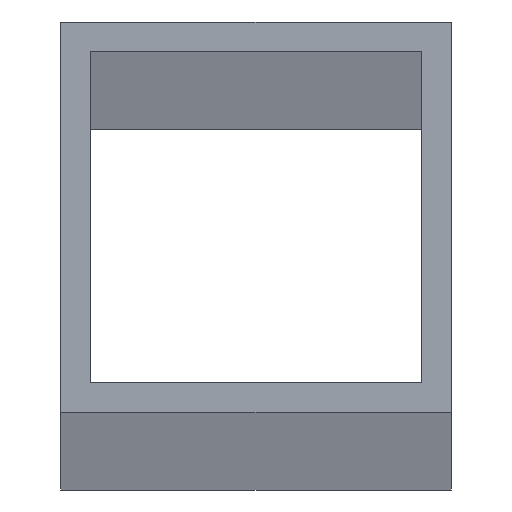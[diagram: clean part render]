
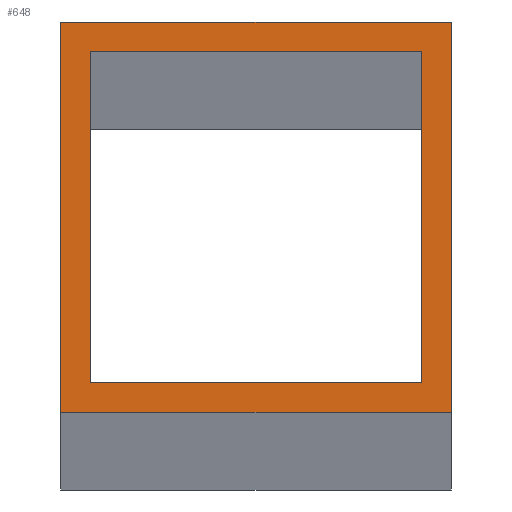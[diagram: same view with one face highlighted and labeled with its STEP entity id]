
A CAD part, top view. The second image highlights one B-rep face of the part: STEP entity #648.
In plain terms, the highlighted planar face has unit normal (0, 0, 1).
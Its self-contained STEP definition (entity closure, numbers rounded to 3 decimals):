
#24 = VERTEX_POINT('',#25);
#25 = CARTESIAN_POINT('',(-20.,-20.,4568.118));
#32 = PLANE('',#33);
#33 = AXIS2_PLACEMENT_3D('',#34,#35,#36);
#34 = CARTESIAN_POINT('',(-20.,-20.,0.));
#35 = DIRECTION('',(0.,1.,0.));
#36 = DIRECTION('',(1.,0.,0.));
#44 = PLANE('',#45);
#45 = AXIS2_PLACEMENT_3D('',#46,#47,#48);
#46 = CARTESIAN_POINT('',(-20.,20.,0.));
#47 = DIRECTION('',(1.,0.,-0.));
#48 = DIRECTION('',(0.,-1.,0.));
#56 = EDGE_CURVE('',#24,#57,#59,.T.);
#57 = VERTEX_POINT('',#58);
#58 = CARTESIAN_POINT('',(20.,-20.,4568.118));
#59 = SURFACE_CURVE('',#60,(#64,#71),.PCURVE_S1.);
#60 = LINE('',#61,#62);
#61 = CARTESIAN_POINT('',(-20.,-20.,4568.118));
#62 = VECTOR('',#63,1.);
#63 = DIRECTION('',(1.,0.,0.));
#64 = PCURVE('',#32,#65);
#65 = DEFINITIONAL_REPRESENTATION('',(#66),#70);
#66 = LINE('',#67,#68);
#67 = CARTESIAN_POINT('',(0.,-4568.118));
#68 = VECTOR('',#69,1.);
#69 = DIRECTION('',(1.,0.));
#70 = ( GEOMETRIC_REPRESENTATION_CONTEXT(2) 
PARAMETRIC_REPRESENTATION_CONTEXT() REPRESENTATION_CONTEXT('2D SPACE',''
  ) );
#71 = PCURVE('',#72,#77);
#72 = PLANE('',#73);
#73 = AXIS2_PLACEMENT_3D('',#74,#75,#76);
#74 = CARTESIAN_POINT('',(0.,0.,4568.118));
#75 = DIRECTION('',(0.,0.,1.));
#76 = DIRECTION('',(1.,0.,-0.));
#77 = DEFINITIONAL_REPRESENTATION('',(#78),#82);
#78 = LINE('',#79,#80);
#79 = CARTESIAN_POINT('',(-20.,-20.));
#80 = VECTOR('',#81,1.);
#81 = DIRECTION('',(1.,0.));
#82 = ( GEOMETRIC_REPRESENTATION_CONTEXT(2) 
PARAMETRIC_REPRESENTATION_CONTEXT() REPRESENTATION_CONTEXT('2D SPACE',''
  ) );
#100 = PLANE('',#101);
#101 = AXIS2_PLACEMENT_3D('',#102,#103,#104);
#102 = CARTESIAN_POINT('',(20.,-20.,0.));
#103 = DIRECTION('',(-1.,0.,0.));
#104 = DIRECTION('',(0.,1.,0.));
#142 = EDGE_CURVE('',#57,#143,#145,.T.);
#143 = VERTEX_POINT('',#144);
#144 = CARTESIAN_POINT('',(20.,20.,4568.118));
#145 = SURFACE_CURVE('',#146,(#150,#157),.PCURVE_S1.);
#146 = LINE('',#147,#148);
#147 = CARTESIAN_POINT('',(20.,-20.,4568.118));
#148 = VECTOR('',#149,1.);
#149 = DIRECTION('',(0.,1.,0.));
#150 = PCURVE('',#100,#151);
#151 = DEFINITIONAL_REPRESENTATION('',(#152),#156);
#152 = LINE('',#153,#154);
#153 = CARTESIAN_POINT('',(0.,-4568.118));
#154 = VECTOR('',#155,1.);
#155 = DIRECTION('',(1.,0.));
#156 = ( GEOMETRIC_REPRESENTATION_CONTEXT(2) 
PARAMETRIC_REPRESENTATION_CONTEXT() REPRESENTATION_CONTEXT('2D SPACE',''
  ) );
#157 = PCURVE('',#72,#158);
#158 = DEFINITIONAL_REPRESENTATION('',(#159),#163);
#159 = LINE('',#160,#161);
#160 = CARTESIAN_POINT('',(20.,-20.));
#161 = VECTOR('',#162,1.);
#162 = DIRECTION('',(0.,1.));
#163 = ( GEOMETRIC_REPRESENTATION_CONTEXT(2) 
PARAMETRIC_REPRESENTATION_CONTEXT() REPRESENTATION_CONTEXT('2D SPACE',''
  ) );
#181 = PLANE('',#182);
#182 = AXIS2_PLACEMENT_3D('',#183,#184,#185);
#183 = CARTESIAN_POINT('',(20.,20.,0.));
#184 = DIRECTION('',(0.,-1.,0.));
#185 = DIRECTION('',(-1.,0.,0.));
#218 = EDGE_CURVE('',#143,#219,#221,.T.);
#219 = VERTEX_POINT('',#220);
#220 = CARTESIAN_POINT('',(-20.,20.,4568.118));
#221 = SURFACE_CURVE('',#222,(#226,#233),.PCURVE_S1.);
#222 = LINE('',#223,#224);
#223 = CARTESIAN_POINT('',(20.,20.,4568.118));
#224 = VECTOR('',#225,1.);
#225 = DIRECTION('',(-1.,0.,0.));
#226 = PCURVE('',#181,#227);
#227 = DEFINITIONAL_REPRESENTATION('',(#228),#232);
#228 = LINE('',#229,#230);
#229 = CARTESIAN_POINT('',(0.,-4568.118));
#230 = VECTOR('',#231,1.);
#231 = DIRECTION('',(1.,0.));
#232 = ( GEOMETRIC_REPRESENTATION_CONTEXT(2) 
PARAMETRIC_REPRESENTATION_CONTEXT() REPRESENTATION_CONTEXT('2D SPACE',''
  ) );
#233 = PCURVE('',#72,#234);
#234 = DEFINITIONAL_REPRESENTATION('',(#235),#239);
#235 = LINE('',#236,#237);
#236 = CARTESIAN_POINT('',(20.,20.));
#237 = VECTOR('',#238,1.);
#238 = DIRECTION('',(-1.,0.));
#239 = ( GEOMETRIC_REPRESENTATION_CONTEXT(2) 
PARAMETRIC_REPRESENTATION_CONTEXT() REPRESENTATION_CONTEXT('2D SPACE',''
  ) );
#289 = EDGE_CURVE('',#219,#24,#290,.T.);
#290 = SURFACE_CURVE('',#291,(#295,#302),.PCURVE_S1.);
#291 = LINE('',#292,#293);
#292 = CARTESIAN_POINT('',(-20.,20.,4568.118));
#293 = VECTOR('',#294,1.);
#294 = DIRECTION('',(0.,-1.,0.));
#295 = PCURVE('',#44,#296);
#296 = DEFINITIONAL_REPRESENTATION('',(#297),#301);
#297 = LINE('',#298,#299);
#298 = CARTESIAN_POINT('',(0.,-4568.118));
#299 = VECTOR('',#300,1.);
#300 = DIRECTION('',(1.,0.));
#301 = ( GEOMETRIC_REPRESENTATION_CONTEXT(2) 
PARAMETRIC_REPRESENTATION_CONTEXT() REPRESENTATION_CONTEXT('2D SPACE',''
  ) );
#302 = PCURVE('',#72,#303);
#303 = DEFINITIONAL_REPRESENTATION('',(#304),#308);
#304 = LINE('',#305,#306);
#305 = CARTESIAN_POINT('',(-20.,20.));
#306 = VECTOR('',#307,1.);
#307 = DIRECTION('',(0.,-1.));
#308 = ( GEOMETRIC_REPRESENTATION_CONTEXT(2) 
PARAMETRIC_REPRESENTATION_CONTEXT() REPRESENTATION_CONTEXT('2D SPACE',''
  ) );
#338 = VERTEX_POINT('',#339);
#339 = CARTESIAN_POINT('',(-17.,-17.,4568.118));
#346 = PLANE('',#347);
#347 = AXIS2_PLACEMENT_3D('',#348,#349,#350);
#348 = CARTESIAN_POINT('',(-17.,-17.,0.));
#349 = DIRECTION('',(0.,1.,0.));
#350 = DIRECTION('',(1.,0.,0.));
#358 = PLANE('',#359);
#359 = AXIS2_PLACEMENT_3D('',#360,#361,#362);
#360 = CARTESIAN_POINT('',(-17.,17.,0.));
#361 = DIRECTION('',(1.,0.,-0.));
#362 = DIRECTION('',(0.,-1.,0.));
#370 = EDGE_CURVE('',#338,#371,#373,.T.);
#371 = VERTEX_POINT('',#372);
#372 = CARTESIAN_POINT('',(17.,-17.,4568.118));
#373 = SURFACE_CURVE('',#374,(#378,#385),.PCURVE_S1.);
#374 = LINE('',#375,#376);
#375 = CARTESIAN_POINT('',(-17.,-17.,4568.118));
#376 = VECTOR('',#377,1.);
#377 = DIRECTION('',(1.,0.,0.));
#378 = PCURVE('',#346,#379);
#379 = DEFINITIONAL_REPRESENTATION('',(#380),#384);
#380 = LINE('',#381,#382);
#381 = CARTESIAN_POINT('',(0.,-4568.118));
#382 = VECTOR('',#383,1.);
#383 = DIRECTION('',(1.,0.));
#384 = ( GEOMETRIC_REPRESENTATION_CONTEXT(2) 
PARAMETRIC_REPRESENTATION_CONTEXT() REPRESENTATION_CONTEXT('2D SPACE',''
  ) );
#385 = PCURVE('',#72,#386);
#386 = DEFINITIONAL_REPRESENTATION('',(#387),#391);
#387 = LINE('',#388,#389);
#388 = CARTESIAN_POINT('',(-17.,-17.));
#389 = VECTOR('',#390,1.);
#390 = DIRECTION('',(1.,0.));
#391 = ( GEOMETRIC_REPRESENTATION_CONTEXT(2) 
PARAMETRIC_REPRESENTATION_CONTEXT() REPRESENTATION_CONTEXT('2D SPACE',''
  ) );
#409 = PLANE('',#410);
#410 = AXIS2_PLACEMENT_3D('',#411,#412,#413);
#411 = CARTESIAN_POINT('',(17.,-17.,0.));
#412 = DIRECTION('',(-1.,0.,0.));
#413 = DIRECTION('',(0.,1.,0.));
#446 = EDGE_CURVE('',#371,#447,#449,.T.);
#447 = VERTEX_POINT('',#448);
#448 = CARTESIAN_POINT('',(17.,17.,4568.118));
#449 = SURFACE_CURVE('',#450,(#454,#461),.PCURVE_S1.);
#450 = LINE('',#451,#452);
#451 = CARTESIAN_POINT('',(17.,-17.,4568.118));
#452 = VECTOR('',#453,1.);
#453 = DIRECTION('',(0.,1.,0.));
#454 = PCURVE('',#409,#455);
#455 = DEFINITIONAL_REPRESENTATION('',(#456),#460);
#456 = LINE('',#457,#458);
#457 = CARTESIAN_POINT('',(0.,-4568.118));
#458 = VECTOR('',#459,1.);
#459 = DIRECTION('',(1.,0.));
#460 = ( GEOMETRIC_REPRESENTATION_CONTEXT(2) 
PARAMETRIC_REPRESENTATION_CONTEXT() REPRESENTATION_CONTEXT('2D SPACE',''
  ) );
#461 = PCURVE('',#72,#462);
#462 = DEFINITIONAL_REPRESENTATION('',(#463),#467);
#463 = LINE('',#464,#465);
#464 = CARTESIAN_POINT('',(17.,-17.));
#465 = VECTOR('',#466,1.);
#466 = DIRECTION('',(0.,1.));
#467 = ( GEOMETRIC_REPRESENTATION_CONTEXT(2) 
PARAMETRIC_REPRESENTATION_CONTEXT() REPRESENTATION_CONTEXT('2D SPACE',''
  ) );
#485 = PLANE('',#486);
#486 = AXIS2_PLACEMENT_3D('',#487,#488,#489);
#487 = CARTESIAN_POINT('',(17.,17.,0.));
#488 = DIRECTION('',(0.,-1.,0.));
#489 = DIRECTION('',(-1.,0.,0.));
#522 = EDGE_CURVE('',#447,#523,#525,.T.);
#523 = VERTEX_POINT('',#524);
#524 = CARTESIAN_POINT('',(-17.,17.,4568.118));
#525 = SURFACE_CURVE('',#526,(#530,#537),.PCURVE_S1.);
#526 = LINE('',#527,#528);
#527 = CARTESIAN_POINT('',(17.,17.,4568.118));
#528 = VECTOR('',#529,1.);
#529 = DIRECTION('',(-1.,0.,0.));
#530 = PCURVE('',#485,#531);
#531 = DEFINITIONAL_REPRESENTATION('',(#532),#536);
#532 = LINE('',#533,#534);
#533 = CARTESIAN_POINT('',(0.,-4568.118));
#534 = VECTOR('',#535,1.);
#535 = DIRECTION('',(1.,0.));
#536 = ( GEOMETRIC_REPRESENTATION_CONTEXT(2) 
PARAMETRIC_REPRESENTATION_CONTEXT() REPRESENTATION_CONTEXT('2D SPACE',''
  ) );
#537 = PCURVE('',#72,#538);
#538 = DEFINITIONAL_REPRESENTATION('',(#539),#543);
#539 = LINE('',#540,#541);
#540 = CARTESIAN_POINT('',(17.,17.));
#541 = VECTOR('',#542,1.);
#542 = DIRECTION('',(-1.,0.));
#543 = ( GEOMETRIC_REPRESENTATION_CONTEXT(2) 
PARAMETRIC_REPRESENTATION_CONTEXT() REPRESENTATION_CONTEXT('2D SPACE',''
  ) );
#593 = EDGE_CURVE('',#523,#338,#594,.T.);
#594 = SURFACE_CURVE('',#595,(#599,#606),.PCURVE_S1.);
#595 = LINE('',#596,#597);
#596 = CARTESIAN_POINT('',(-17.,17.,4568.118));
#597 = VECTOR('',#598,1.);
#598 = DIRECTION('',(0.,-1.,0.));
#599 = PCURVE('',#358,#600);
#600 = DEFINITIONAL_REPRESENTATION('',(#601),#605);
#601 = LINE('',#602,#603);
#602 = CARTESIAN_POINT('',(0.,-4568.118));
#603 = VECTOR('',#604,1.);
#604 = DIRECTION('',(1.,0.));
#605 = ( GEOMETRIC_REPRESENTATION_CONTEXT(2) 
PARAMETRIC_REPRESENTATION_CONTEXT() REPRESENTATION_CONTEXT('2D SPACE',''
  ) );
#606 = PCURVE('',#72,#607);
#607 = DEFINITIONAL_REPRESENTATION('',(#608),#612);
#608 = LINE('',#609,#610);
#609 = CARTESIAN_POINT('',(-17.,17.));
#610 = VECTOR('',#611,1.);
#611 = DIRECTION('',(0.,-1.));
#612 = ( GEOMETRIC_REPRESENTATION_CONTEXT(2) 
PARAMETRIC_REPRESENTATION_CONTEXT() REPRESENTATION_CONTEXT('2D SPACE',''
  ) );
#648 = ADVANCED_FACE('',(#649,#655),#72,.T.);
#649 = FACE_BOUND('',#650,.T.);
#650 = EDGE_LOOP('',(#651,#652,#653,#654));
#651 = ORIENTED_EDGE('',*,*,#56,.T.);
#652 = ORIENTED_EDGE('',*,*,#142,.T.);
#653 = ORIENTED_EDGE('',*,*,#218,.T.);
#654 = ORIENTED_EDGE('',*,*,#289,.T.);
#655 = FACE_BOUND('',#656,.F.);
#656 = EDGE_LOOP('',(#657,#658,#659,#660));
#657 = ORIENTED_EDGE('',*,*,#370,.T.);
#658 = ORIENTED_EDGE('',*,*,#446,.T.);
#659 = ORIENTED_EDGE('',*,*,#522,.T.);
#660 = ORIENTED_EDGE('',*,*,#593,.T.);
